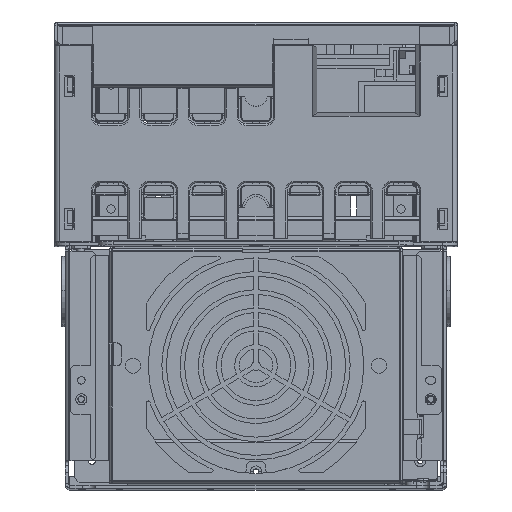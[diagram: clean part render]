
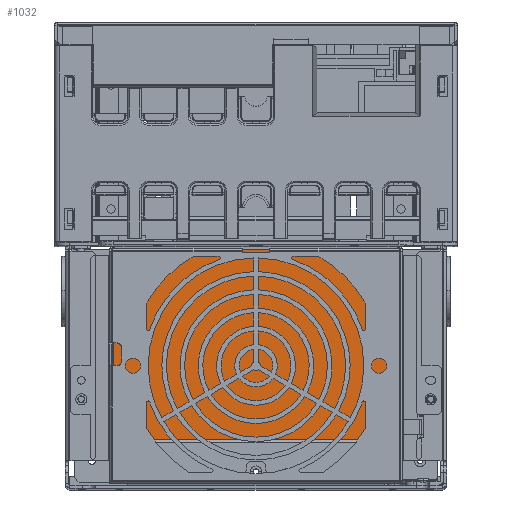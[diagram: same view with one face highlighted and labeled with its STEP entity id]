
A CAD part, top view. The second image highlights one B-rep face of the part: STEP entity #1032.
In plain terms, the highlighted planar face has unit normal (0, 0, 1).
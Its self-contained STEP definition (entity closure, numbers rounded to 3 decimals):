
#1032=ADVANCED_FACE('',(#5502),#5503,.F.);
#5502=FACE_OUTER_BOUND('',#13168,.T.);
#5503=PLANE('',#13169);
#13168=EDGE_LOOP('',(#26374,#26375,#26376,#26377,#26378,#26379,#26380,#26381,#26382,#26383));
#13169=AXIS2_PLACEMENT_3D('',#26384,#26385,#26386);
#26374=ORIENTED_EDGE('',*,*,#51949,.F.);
#26375=ORIENTED_EDGE('',*,*,#51950,.F.);
#26376=ORIENTED_EDGE('',*,*,#51917,.F.);
#26377=ORIENTED_EDGE('',*,*,#51951,.T.);
#26378=ORIENTED_EDGE('',*,*,#51952,.F.);
#26379=ORIENTED_EDGE('',*,*,#51914,.F.);
#26380=ORIENTED_EDGE('',*,*,#51953,.T.);
#26381=ORIENTED_EDGE('',*,*,#51954,.T.);
#26382=ORIENTED_EDGE('',*,*,#51955,.T.);
#26383=ORIENTED_EDGE('',*,*,#51920,.T.);
#26384=CARTESIAN_POINT('',(96.0,5.0,-732.5));
#26385=DIRECTION('',(0.0,0.0,-1.0));
#26386=DIRECTION('',(0.0,-1.0,0.0));
#51914=EDGE_CURVE('',#62595,#62597,#62598,.T.);
#51917=EDGE_CURVE('',#62600,#62602,#62603,.T.);
#51920=EDGE_CURVE('',#62607,#62605,#62608,.T.);
#51949=EDGE_CURVE('',#62655,#62605,#62656,.T.);
#51950=EDGE_CURVE('',#62602,#62655,#62657,.T.);
#51951=EDGE_CURVE('',#62600,#62658,#62659,.T.);
#51952=EDGE_CURVE('',#62597,#62658,#62660,.T.);
#51953=EDGE_CURVE('',#62595,#62661,#62662,.T.);
#51954=EDGE_CURVE('',#62661,#62663,#62664,.T.);
#51955=EDGE_CURVE('',#62663,#62607,#62665,.T.);
#62595=VERTEX_POINT('',#79260);
#62597=VERTEX_POINT('',#79262);
#62598=LINE('',#79263,#79264);
#62600=VERTEX_POINT('',#79266);
#62602=VERTEX_POINT('',#79268);
#62603=LINE('',#79269,#79270);
#62605=VERTEX_POINT('',#79272);
#62607=VERTEX_POINT('',#79274);
#62608=LINE('',#79275,#79276);
#62655=VERTEX_POINT('',#79341);
#62656=LINE('',#79342,#79343);
#62657=LINE('',#79344,#79345);
#62658=VERTEX_POINT('',#79346);
#62659=LINE('',#79347,#79348);
#62660=LINE('',#79349,#79350);
#62661=VERTEX_POINT('',#79351);
#62662=LINE('',#79352,#79353);
#62663=VERTEX_POINT('',#79354);
#62664=LINE('',#79355,#79356);
#62665=LINE('',#79357,#79358);
#79260=CARTESIAN_POINT('',(94.0,158.0,-732.5));
#79262=CARTESIAN_POINT('',(94.0,34.5,-732.5));
#79263=CARTESIAN_POINT('',(94.0,158.0,-732.5));
#79264=VECTOR('',#102171,123.5);
#79266=CARTESIAN_POINT('',(93.5,33.5,-732.5));
#79268=CARTESIAN_POINT('',(-93.5,33.5,-732.5));
#79269=CARTESIAN_POINT('',(93.5,33.5,-732.5));
#79270=VECTOR('',#102178,187.0);
#79272=CARTESIAN_POINT('',(-94.0,34.5,-732.5));
#79274=CARTESIAN_POINT('',(-94.0,158.0,-732.5));
#79275=CARTESIAN_POINT('',(-94.0,158.0,-732.5));
#79276=VECTOR('',#102185,123.5);
#79341=CARTESIAN_POINT('',(-93.5,34.5,-732.5));
#79342=CARTESIAN_POINT('',(-93.5,34.5,-732.5));
#79343=VECTOR('',#102234,0.5);
#79344=CARTESIAN_POINT('',(-93.5,33.5,-732.5));
#79345=VECTOR('',#102235,1.0);
#79346=CARTESIAN_POINT('',(93.5,34.5,-732.5));
#79347=CARTESIAN_POINT('',(93.5,33.5,-732.5));
#79348=VECTOR('',#102236,1.0);
#79349=CARTESIAN_POINT('',(94.0,34.5,-732.5));
#79350=VECTOR('',#102237,0.5);
#79351=CARTESIAN_POINT('',(92.0,158.0,-732.5));
#79352=CARTESIAN_POINT('',(94.0,158.0,-732.5));
#79353=VECTOR('',#102238,2.0);
#79354=CARTESIAN_POINT('',(-92.0,158.0,-732.5));
#79355=CARTESIAN_POINT('',(92.0,158.0,-732.5));
#79356=VECTOR('',#102239,184.0);
#79357=CARTESIAN_POINT('',(-92.0,158.0,-732.5));
#79358=VECTOR('',#102240,2.0);
#102171=DIRECTION('',(0.0,-1.0,0.0));
#102178=DIRECTION('',(-1.0,0.0,0.0));
#102185=DIRECTION('',(0.0,-1.0,0.0));
#102234=DIRECTION('',(-1.0,0.0,0.0));
#102235=DIRECTION('',(0.,1.0,0.0));
#102236=DIRECTION('',(0.,1.0,0.0));
#102237=DIRECTION('',(-1.0,0.,0.0));
#102238=DIRECTION('',(-1.0,0.0,0.0));
#102239=DIRECTION('',(-1.0,0.0,0.0));
#102240=DIRECTION('',(-1.0,0.0,0.0));
